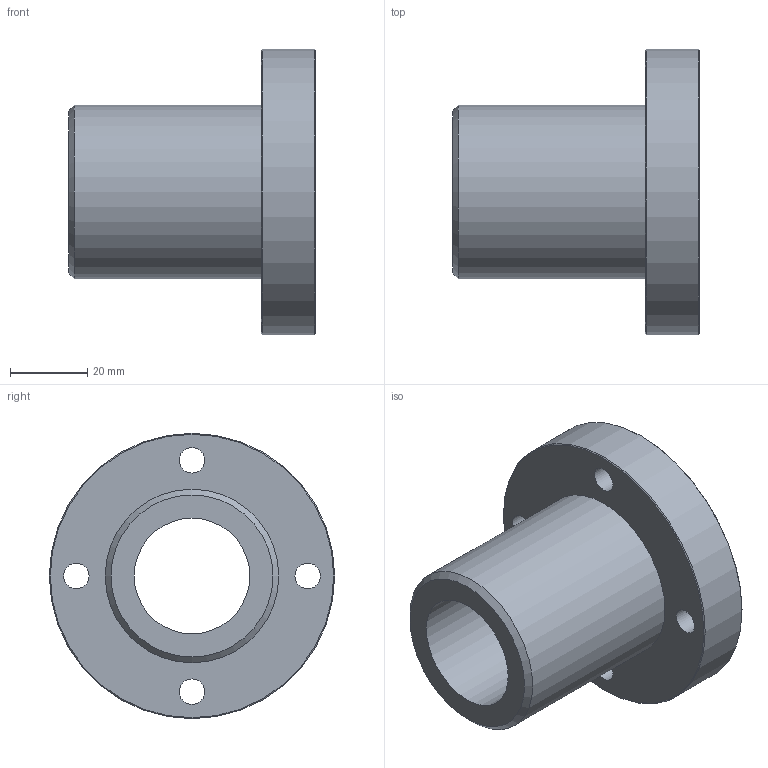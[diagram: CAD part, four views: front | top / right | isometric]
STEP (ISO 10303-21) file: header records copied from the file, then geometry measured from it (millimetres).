
FILE_DESCRIPTION(('STEP AP203'),'1');
FILE_NAME('//192.168.1.1/share/s-4 技術開発/s-4-4_CAD/s-4-4-3_見直し済み/PBC LINEAR修正済み/3D途中/SFPJ/SFPJR/SFPJR30.step','2022-03-24T06:30:00',(' '),(' '),'Spatial InterOp 3D',' ',' ');
FILE_SCHEMA(('CONFIG_CONTROL_DESIGN'));
Length unit declared in the file: millimetre
Products named in the file (1): 1
Bounding box: 64 x 74 x 74 mm (x, y, z)
Volume: 90924 mm3; surface area: 24571.3 mm2
Topology: 1 solids, 1 shells, 21 faces, 43 edges, 29 vertices
Faces by surface type: cylinder 11, plane 7, cone 3
Full cylindrical faces by diameter (mm): 6.6 x4, 11 x4, 30 x1, 45 x1, 74 x1
Entity records: 528 total; most frequent: DIRECTION 94, CARTESIAN_POINT 72, EDGE_LOOP 50, ORIENTED_EDGE 50, AXIS2_PLACEMENT_3D 47, FACE_OUTER_BOUND 32, EDGE_CURVE 25, VERTEX_POINT 25
